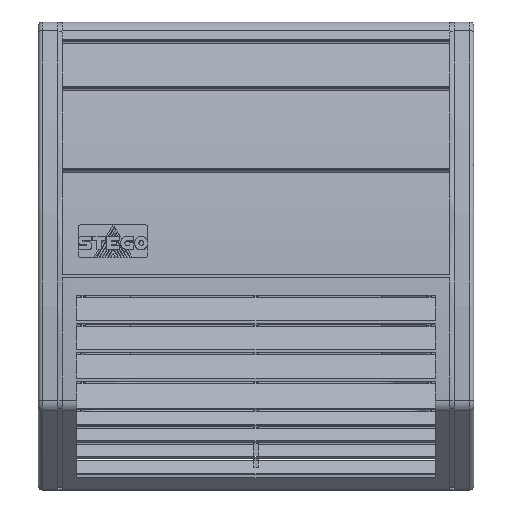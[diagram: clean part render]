
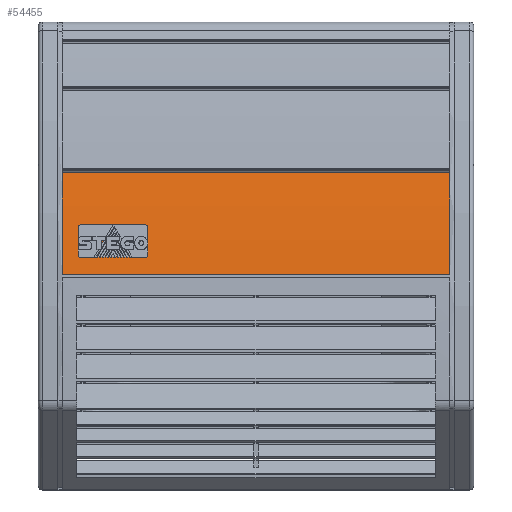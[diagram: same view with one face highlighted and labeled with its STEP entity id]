
A CAD part, top view. The second image highlights one B-rep face of the part: STEP entity #54455.
In plain terms, the highlighted cylindrical face has radius 530 mm (diameter 1060 mm), a partial arc.
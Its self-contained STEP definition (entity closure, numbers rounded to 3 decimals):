
#30 = ORIENTED_EDGE ( 'NONE', *, *, #18640, .T. ) ;
#492 = LINE ( 'NONE', #22405, #26024 ) ;
#7539 = EDGE_CURVE ( 'NONE', #18139, #31972, #45187, .T. ) ;
#9354 = AXIS2_PLACEMENT_3D ( 'NONE', #55523, #57754, #57309 ) ;
#10148 = CARTESIAN_POINT ( 'NONE',  ( 198.5, 153.2, 37.712 ) ) ;
#13172 = DIRECTION ( 'NONE',  ( 1., 0., 0. ) ) ;
#14029 = ORIENTED_EDGE ( 'NONE', *, *, #45133, .T. ) ;
#14215 = DIRECTION ( 'NONE',  ( 0., 0., 1. ) ) ;
#18139 = VERTEX_POINT ( 'NONE', #10148 ) ;
#18640 = EDGE_CURVE ( 'NONE', #31663, #21322, #28809, .T. ) ;
#21063 = CARTESIAN_POINT ( 'NONE',  ( 11.5, 103.7, 46.612 ) ) ;
#21322 = VERTEX_POINT ( 'NONE', #21063 ) ;
#22405 = CARTESIAN_POINT ( 'NONE',  ( 200.996, 153.2, 37.712 ) ) ;
#23039 = LINE ( 'NONE', #26116, #58487 ) ;
#23759 = CARTESIAN_POINT ( 'NONE',  ( 210., 34.769, -478.886 ) ) ;
#25556 = ORIENTED_EDGE ( 'NONE', *, *, #61993, .F. ) ;
#26024 = VECTOR ( 'NONE', #56094, 1000. ) ;
#26116 = CARTESIAN_POINT ( 'NONE',  ( 200.423, 103.7, 46.612 ) ) ;
#26796 = AXIS2_PLACEMENT_3D ( 'NONE', #23759, #57452, #14215 ) ;
#28809 = CIRCLE ( 'NONE', #57354, 530. ) ;
#30899 = DIRECTION ( 'NONE',  ( -1., 0., 0. ) ) ;
#31663 = VERTEX_POINT ( 'NONE', #49365 ) ;
#31972 = VERTEX_POINT ( 'NONE', #32448 ) ;
#32448 = CARTESIAN_POINT ( 'NONE',  ( 198.5, 103.7, 46.612 ) ) ;
#41363 = ORIENTED_EDGE ( 'NONE', *, *, #7539, .F. ) ;
#42041 = CARTESIAN_POINT ( 'NONE',  ( 11.5, 34.769, -478.886 ) ) ;
#43251 = EDGE_LOOP ( 'NONE', ( #30, #25556, #41363, #14029 ) ) ;
#45133 = EDGE_CURVE ( 'NONE', #18139, #31663, #492, .T. ) ;
#45187 = CIRCLE ( 'NONE', #9354, 530. ) ;
#46904 = DIRECTION ( 'NONE',  ( 0., 0., -1. ) ) ;
#49121 = FACE_OUTER_BOUND ( 'NONE', #43251, .T. ) ;
#49365 = CARTESIAN_POINT ( 'NONE',  ( 11.5, 153.2, 37.712 ) ) ;
#54455 = ADVANCED_FACE ( 'NONE', ( #49121 ), #55876, .T. ) ;
#55523 = CARTESIAN_POINT ( 'NONE',  ( 198.5, 34.769, -478.886 ) ) ;
#55876 = CYLINDRICAL_SURFACE ( 'NONE', #26796, 530. ) ;
#56094 = DIRECTION ( 'NONE',  ( -1., 0., 0. ) ) ;
#57309 = DIRECTION ( 'NONE',  ( 0., 0., -1. ) ) ;
#57354 = AXIS2_PLACEMENT_3D ( 'NONE', #42041, #13172, #46904 ) ;
#57452 = DIRECTION ( 'NONE',  ( -1., 0., 0. ) ) ;
#57754 = DIRECTION ( 'NONE',  ( 1., 0., 0. ) ) ;
#58487 = VECTOR ( 'NONE', #30899, 1000. ) ;
#61993 = EDGE_CURVE ( 'NONE', #31972, #21322, #23039, .T. ) ;
